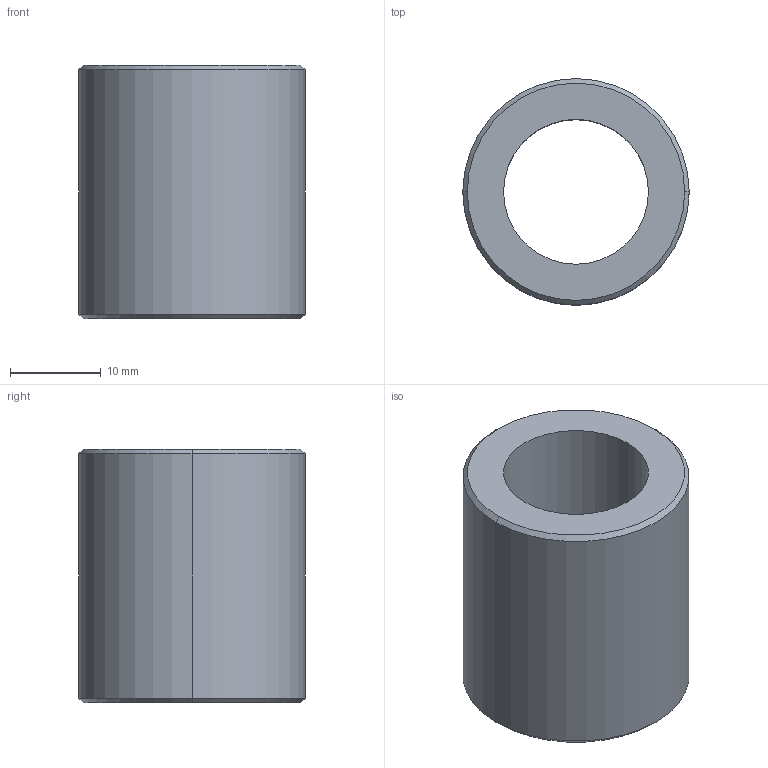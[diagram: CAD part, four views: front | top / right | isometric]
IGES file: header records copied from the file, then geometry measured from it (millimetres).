
Start section: 3D InterOp IGES (Version 21 0 1), Spatial Corp. Copyright (c) 1999-2007.
Global section: file name: DB-16.igs; native system: Spatial Corp.; preprocessor: 3D InterOp GENERIC/IGES 3.0; author: Noname; organization: Noname; date: 20220208.162852; units: millimetre
Bounding box: 25 x 25 x 28 mm (x, y, z)
Surface area: 4139.5 mm2 (no closed solid volume)
Topology: 0 solids, 0 shells, 10 faces, 40 edges, 40 vertices
Faces by surface type: revolution 8, extrusion 2
